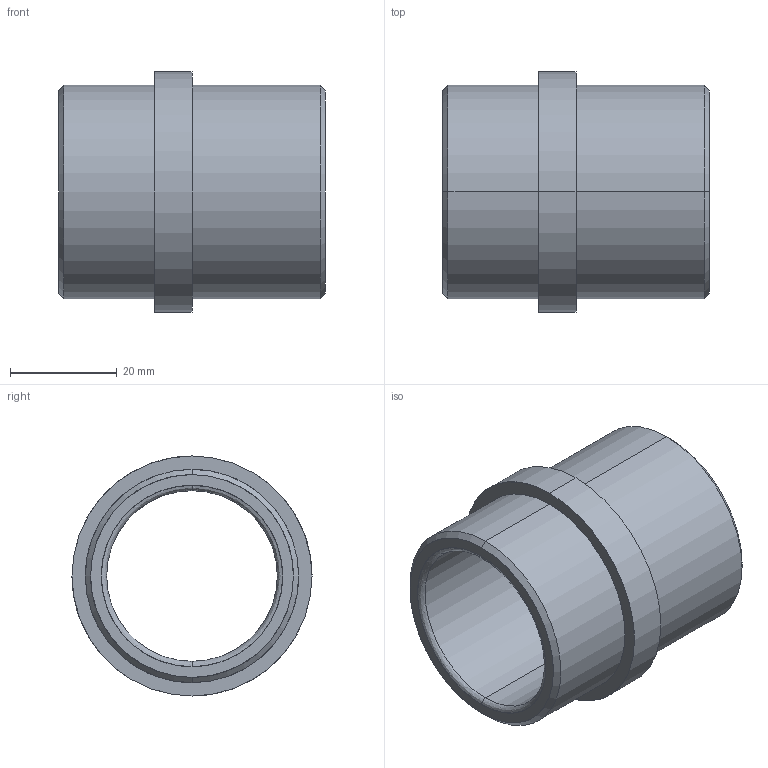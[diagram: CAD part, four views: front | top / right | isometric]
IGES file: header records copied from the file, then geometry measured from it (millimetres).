
Start section: START RECORD GO HERE.
Global section: file name: G403-32X50.igs; native system: DASSAULT SYSTEMES CATIA V5 R20 - www.3ds.com; preprocessor: CATIA Version 5 Release 20 ; author: Utente; organization: NB04-ASUS; date: 20210421.132545; units: millimetre
Bounding box: 50 x 45 x 45 mm (x, y, z)
Surface area: 12756.8 mm2 (no closed solid volume)
Topology: 0 solids, 0 shells, 20 faces, 128 edges, 128 vertices
Faces by surface type: revolution 16, plane 4
